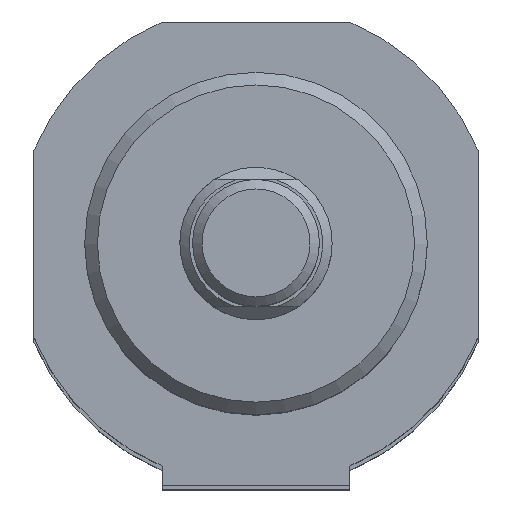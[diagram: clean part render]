
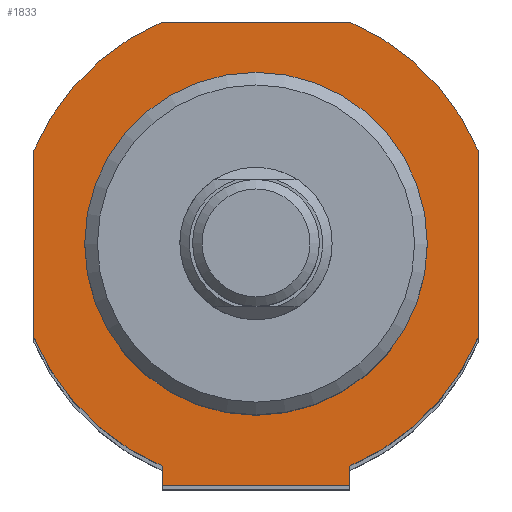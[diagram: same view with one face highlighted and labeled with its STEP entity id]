
A CAD part, top view. The second image highlights one B-rep face of the part: STEP entity #1833.
In plain terms, the highlighted planar face has unit normal (0, 0, 1).
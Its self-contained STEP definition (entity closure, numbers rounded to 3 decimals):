
#898=CARTESIAN_POINT('',(7.399,-19.0,249.));
#899=VERTEX_POINT('',#898);
#900=CARTESIAN_POINT('',(-7.399,-19.0,249.));
#901=VERTEX_POINT('',#900);
#902=CARTESIAN_POINT('',(7.399,-19.0,249.));
#903=DIRECTION('',(-1.0,0.0,0.0));
#904=VECTOR('',#903,14.799);
#905=LINE('',#902,#904);
#906=EDGE_CURVE('',#899,#901,#905,.T.);
#1054=CARTESIAN_POINT('',(-7.399,-17.5,249.));
#1055=VERTEX_POINT('',#1054);
#1069=CARTESIAN_POINT('',(-7.399,-17.5,249.));
#1070=DIRECTION('',(0.0,-1.0,0.0));
#1071=VECTOR('',#1070,1.5);
#1072=LINE('',#1069,#1071);
#1073=EDGE_CURVE('',#1055,#901,#1072,.T.);
#1085=CARTESIAN_POINT('',(7.399,-17.5,249.));
#1086=VERTEX_POINT('',#1085);
#1093=CARTESIAN_POINT('',(7.399,-17.5,249.));
#1094=DIRECTION('',(0.0,-1.0,0.0));
#1095=VECTOR('',#1094,1.5);
#1096=LINE('',#1093,#1095);
#1097=EDGE_CURVE('',#1086,#899,#1096,.T.);
#1561=CARTESIAN_POINT('',(13.5,0.,249.));
#1562=VERTEX_POINT('',#1561);
#1563=CARTESIAN_POINT('',(0.,0.,249.));
#1564=DIRECTION('',(0.0,0.0,-1.0));
#1565=DIRECTION('',(-1.0,0.0,0.0));
#1566=AXIS2_PLACEMENT_3D('',#1563,#1564,#1565);
#1567=CIRCLE('',#1566,13.5);
#1568=EDGE_CURVE('',#1562,#1562,#1567,.T.);
#1653=CARTESIAN_POINT('',(-7.399,17.5,249.));
#1654=VERTEX_POINT('',#1653);
#1655=CARTESIAN_POINT('',(7.399,17.5,249.));
#1656=VERTEX_POINT('',#1655);
#1657=CARTESIAN_POINT('',(-7.399,17.5,249.));
#1658=DIRECTION('',(1.0,0.0,0.0));
#1659=VECTOR('',#1658,14.799);
#1660=LINE('',#1657,#1659);
#1661=EDGE_CURVE('',#1654,#1656,#1660,.T.);
#1684=CARTESIAN_POINT('',(17.5,7.399,249.));
#1685=VERTEX_POINT('',#1684);
#1686=CARTESIAN_POINT('',(0.,0.,249.));
#1687=DIRECTION('',(0.,0.,-1.0));
#1688=DIRECTION('',(0.921,0.389,0.));
#1689=AXIS2_PLACEMENT_3D('',#1686,#1687,#1688);
#1690=CIRCLE('',#1689,19.0);
#1691=EDGE_CURVE('',#1656,#1685,#1690,.T.);
#1709=CARTESIAN_POINT('',(17.5,-7.399,249.));
#1710=VERTEX_POINT('',#1709);
#1711=CARTESIAN_POINT('',(17.5,7.399,249.));
#1712=DIRECTION('',(0.0,-1.0,0.0));
#1713=VECTOR('',#1712,14.799);
#1714=LINE('',#1711,#1713);
#1715=EDGE_CURVE('',#1685,#1710,#1714,.T.);
#1733=CARTESIAN_POINT('',(0.,0.,249.));
#1734=DIRECTION('',(0.,0.,-1.));
#1735=DIRECTION('',(0.389,-0.921,0.));
#1736=AXIS2_PLACEMENT_3D('',#1733,#1734,#1735);
#1737=CIRCLE('',#1736,19.0);
#1738=EDGE_CURVE('',#1710,#1086,#1737,.T.);
#1751=CARTESIAN_POINT('',(-17.5,-7.399,249.));
#1752=VERTEX_POINT('',#1751);
#1753=CARTESIAN_POINT('',(0.,0.,249.));
#1754=DIRECTION('',(0.,0.,-1.0));
#1755=DIRECTION('',(-0.921,-0.389,0.));
#1756=AXIS2_PLACEMENT_3D('',#1753,#1754,#1755);
#1757=CIRCLE('',#1756,19.0);
#1758=EDGE_CURVE('',#1055,#1752,#1757,.T.);
#1776=CARTESIAN_POINT('',(-17.5,7.399,249.));
#1777=VERTEX_POINT('',#1776);
#1778=CARTESIAN_POINT('',(-17.5,-7.399,249.));
#1779=DIRECTION('',(0.0,1.0,0.0));
#1780=VECTOR('',#1779,14.799);
#1781=LINE('',#1778,#1780);
#1782=EDGE_CURVE('',#1752,#1777,#1781,.T.);
#1800=CARTESIAN_POINT('',(0.,0.,249.));
#1801=DIRECTION('',(0.,0.,-1.));
#1802=DIRECTION('',(-0.389,0.921,0.));
#1803=AXIS2_PLACEMENT_3D('',#1800,#1801,#1802);
#1804=CIRCLE('',#1803,19.0);
#1805=EDGE_CURVE('',#1777,#1654,#1804,.T.);
#1813=CARTESIAN_POINT('',(0.,0.,249.));
#1814=DIRECTION('',(0.0,0.0,1.0));
#1815=DIRECTION('',(1.0,0.0,0.0));
#1816=AXIS2_PLACEMENT_3D('',#1813,#1814,#1815);
#1817=PLANE('',#1816);
#1818=ORIENTED_EDGE('',*,*,#1661,.F.);
#1819=ORIENTED_EDGE('',*,*,#1805,.F.);
#1820=ORIENTED_EDGE('',*,*,#1782,.F.);
#1821=ORIENTED_EDGE('',*,*,#1758,.F.);
#1822=ORIENTED_EDGE('',*,*,#1073,.T.);
#1823=ORIENTED_EDGE('',*,*,#906,.F.);
#1824=ORIENTED_EDGE('',*,*,#1097,.F.);
#1825=ORIENTED_EDGE('',*,*,#1738,.F.);
#1826=ORIENTED_EDGE('',*,*,#1715,.F.);
#1827=ORIENTED_EDGE('',*,*,#1691,.F.);
#1828=EDGE_LOOP('',(#1818,#1819,#1820,#1821,#1822,#1823,#1824,#1825,#1826,#1827));
#1829=FACE_OUTER_BOUND('',#1828,.T.);
#1830=ORIENTED_EDGE('',*,*,#1568,.T.);
#1831=EDGE_LOOP('',(#1830));
#1832=FACE_BOUND('',#1831,.T.);
#1833=ADVANCED_FACE('',(#1829,#1832),#1817,.T.);
